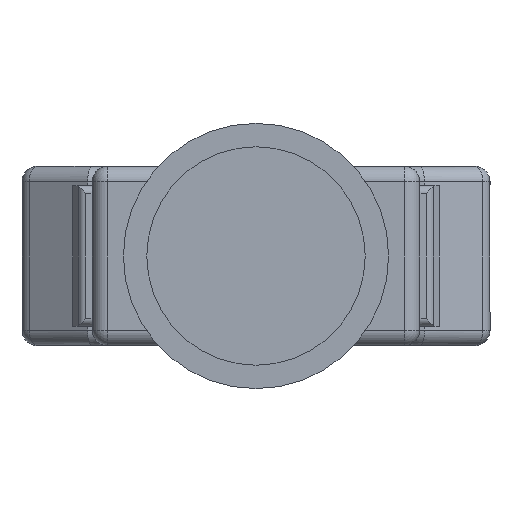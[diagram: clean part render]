
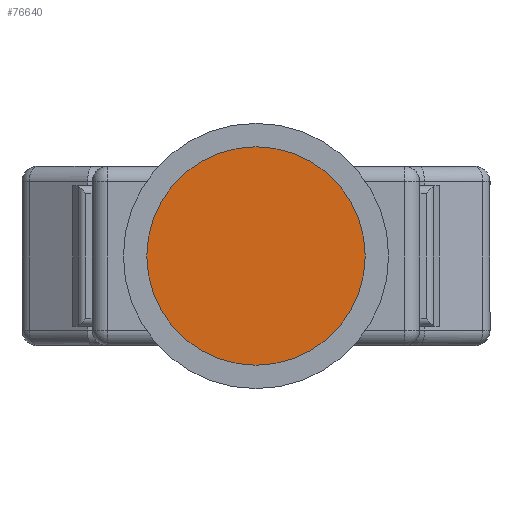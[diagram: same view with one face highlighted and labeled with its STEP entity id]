
A CAD part, left-side view. The second image highlights one B-rep face of the part: STEP entity #76640.
In plain terms, the highlighted planar face has unit normal (-1, 0, 0).
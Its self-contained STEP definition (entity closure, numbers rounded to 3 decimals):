
#76000=CARTESIAN_POINT('',(8.757,73.732,
-7.));
#76010=VERTEX_POINT('',#76000);
#76190=CARTESIAN_POINT('',(8.757,73.732,
7.));
#76200=VERTEX_POINT('',#76190);
#76230=CARTESIAN_POINT('',(8.757,73.732,
0.));
#76240=DIRECTION('',(-1.,0.,0.));
#76250=DIRECTION('',(0.,0.,-1.));
#76260=AXIS2_PLACEMENT_3D('',#76230,#76240,#76250);
#76270=CIRCLE('',#76260,7.);
#76280=EDGE_CURVE('',#76200,#76010,#76270,.T.);
#76540=CARTESIAN_POINT('',(8.757,79.657,0.));
#76550=DIRECTION('',(-1.,0.,0.));
#76560=DIRECTION('',(0.,1.,0.));
#76570=AXIS2_PLACEMENT_3D('',#76540,#76550,#76560);
#76580=PLANE('',#76570);
#76590=EDGE_CURVE('',#76010,#76200,#76270,.T.);
#76600=ORIENTED_EDGE('',*,*,#76590,.T.);
#76610=ORIENTED_EDGE('',*,*,#76280,.T.);
#76620=EDGE_LOOP('',(#76610,#76600));
#76630=FACE_OUTER_BOUND('',#76620,.T.);
#76640=ADVANCED_FACE('',(#76630),#76580,.T.);
